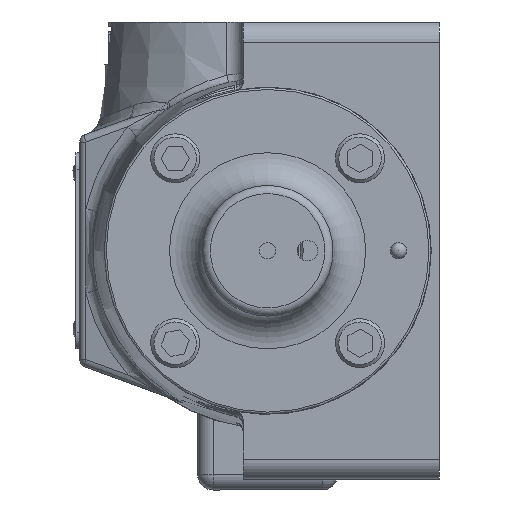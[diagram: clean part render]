
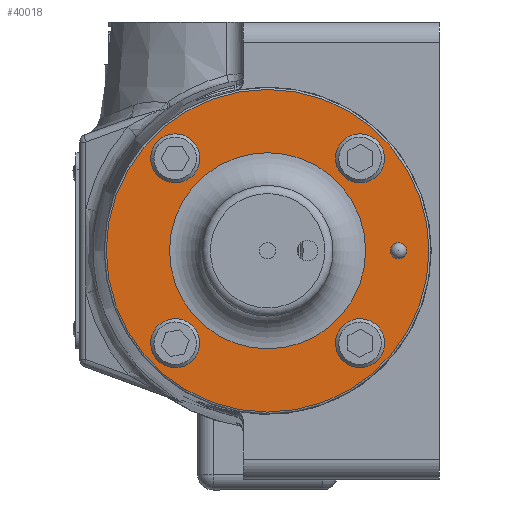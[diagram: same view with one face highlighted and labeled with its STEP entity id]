
A CAD part, left-side view. The second image highlights one B-rep face of the part: STEP entity #40018.
In plain terms, the highlighted planar face has unit normal (-1, 0, 0).
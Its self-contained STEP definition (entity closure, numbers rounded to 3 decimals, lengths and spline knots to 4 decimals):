
#895=FACE_BOUND('',#7323,.T.);
#896=FACE_BOUND('',#7324,.T.);
#897=FACE_BOUND('',#7325,.T.);
#898=FACE_BOUND('',#7326,.T.);
#899=FACE_BOUND('',#7327,.T.);
#900=FACE_BOUND('',#7328,.T.);
#2492=CIRCLE('',#43005,0.4763);
#2495=CIRCLE('',#43018,0.4763);
#2498=CIRCLE('',#43031,0.4763);
#2501=CIRCLE('',#43044,0.4763);
#2518=CIRCLE('',#43073,3.1353);
#2519=CIRCLE('',#43074,0.1588);
#2520=CIRCLE('',#43075,1.905);
#4903=FACE_OUTER_BOUND('',#7322,.T.);
#7322=EDGE_LOOP('',(#31033));
#7323=EDGE_LOOP('',(#31034));
#7324=EDGE_LOOP('',(#31035));
#7325=EDGE_LOOP('',(#31036));
#7326=EDGE_LOOP('',(#31037));
#7327=EDGE_LOOP('',(#31038));
#7328=EDGE_LOOP('',(#31039));
#16888=VERTEX_POINT('',#77299);
#16903=VERTEX_POINT('',#77347);
#16918=VERTEX_POINT('',#77395);
#16933=VERTEX_POINT('',#77443);
#16974=VERTEX_POINT('',#77562);
#16975=VERTEX_POINT('',#77564);
#16976=VERTEX_POINT('',#77566);
#21762=EDGE_CURVE('',#16888,#16888,#2492,.T.);
#21785=EDGE_CURVE('',#16903,#16903,#2495,.T.);
#21808=EDGE_CURVE('',#16918,#16918,#2498,.T.);
#21831=EDGE_CURVE('',#16933,#16933,#2501,.T.);
#21878=EDGE_CURVE('',#16974,#16974,#2518,.T.);
#21879=EDGE_CURVE('',#16975,#16975,#2519,.T.);
#21880=EDGE_CURVE('',#16976,#16976,#2520,.T.);
#31033=ORIENTED_EDGE('',*,*,#21878,.F.);
#31034=ORIENTED_EDGE('',*,*,#21762,.T.);
#31035=ORIENTED_EDGE('',*,*,#21785,.T.);
#31036=ORIENTED_EDGE('',*,*,#21808,.T.);
#31037=ORIENTED_EDGE('',*,*,#21831,.T.);
#31038=ORIENTED_EDGE('',*,*,#21879,.T.);
#31039=ORIENTED_EDGE('',*,*,#21880,.F.);
#35861=PLANE('',#43072);
#40018=ADVANCED_FACE('',(#4903,#895,#896,#897,#898,#899,#900),#35861,.F.);
#43005=AXIS2_PLACEMENT_3D('',#77301,#50116,#50117);
#43018=AXIS2_PLACEMENT_3D('',#77349,#50162,#50163);
#43031=AXIS2_PLACEMENT_3D('',#77397,#50208,#50209);
#43044=AXIS2_PLACEMENT_3D('',#77445,#50254,#50255);
#43072=AXIS2_PLACEMENT_3D('',#77561,#50339,#50340);
#43073=AXIS2_PLACEMENT_3D('',#77563,#50341,#50342);
#43074=AXIS2_PLACEMENT_3D('',#77565,#50343,#50344);
#43075=AXIS2_PLACEMENT_3D('',#77567,#50345,#50346);
#50116=DIRECTION('center_axis',(1.,0.,0.));
#50117=DIRECTION('ref_axis',(0.,-0.2,-0.98));
#50162=DIRECTION('center_axis',(1.,0.,0.));
#50163=DIRECTION('ref_axis',(0.,-0.004,
-1.));
#50208=DIRECTION('center_axis',(1.,0.,0.));
#50209=DIRECTION('ref_axis',(0.,-0.488,-0.873));
#50254=DIRECTION('center_axis',(1.,0.,0.));
#50255=DIRECTION('ref_axis',(0.,-1.,-0.02));
#50339=DIRECTION('center_axis',(1.,0.,0.));
#50340=DIRECTION('ref_axis',(0.,0.,
-1.));
#50341=DIRECTION('center_axis',(1.,0.,0.));
#50342=DIRECTION('ref_axis',(0.,0.,
-1.));
#50343=DIRECTION('center_axis',(1.,0.,0.));
#50344=DIRECTION('ref_axis',(0.,0.,
-1.));
#50345=DIRECTION('center_axis',(-1.,0.,0.));
#50346=DIRECTION('ref_axis',(0.,0.,
-1.));
#77299=CARTESIAN_POINT('',(-6.1074,1.8912,-1.3294));
#77301=CARTESIAN_POINT('Origin',(-6.1074,1.7961,-1.7961));
#77347=CARTESIAN_POINT('',(-6.1074,1.798,2.2723));
#77349=CARTESIAN_POINT('Origin',(-6.1074,1.7961,1.7961));
#77395=CARTESIAN_POINT('',(-6.1074,-1.5638,2.2119));
#77397=CARTESIAN_POINT('Origin',(-6.1074,-1.7961,1.7961));
#77443=CARTESIAN_POINT('',(-6.1074,-1.3199,-1.7864));
#77445=CARTESIAN_POINT('Origin',(-6.1074,-1.7961,-1.7961));
#77561=CARTESIAN_POINT('Origin',(-6.1074,0.,0.));
#77562=CARTESIAN_POINT('',(-6.1074,0.,3.1353));
#77563=CARTESIAN_POINT('Origin',(-6.1074,0.,0.));
#77564=CARTESIAN_POINT('',(-6.1074,-2.54,-0.1588));
#77565=CARTESIAN_POINT('Origin',(-6.1074,-2.54,0.));
#77566=CARTESIAN_POINT('',(-6.1074,0.,1.905));
#77567=CARTESIAN_POINT('Origin',(-6.1074,0.,0.));
